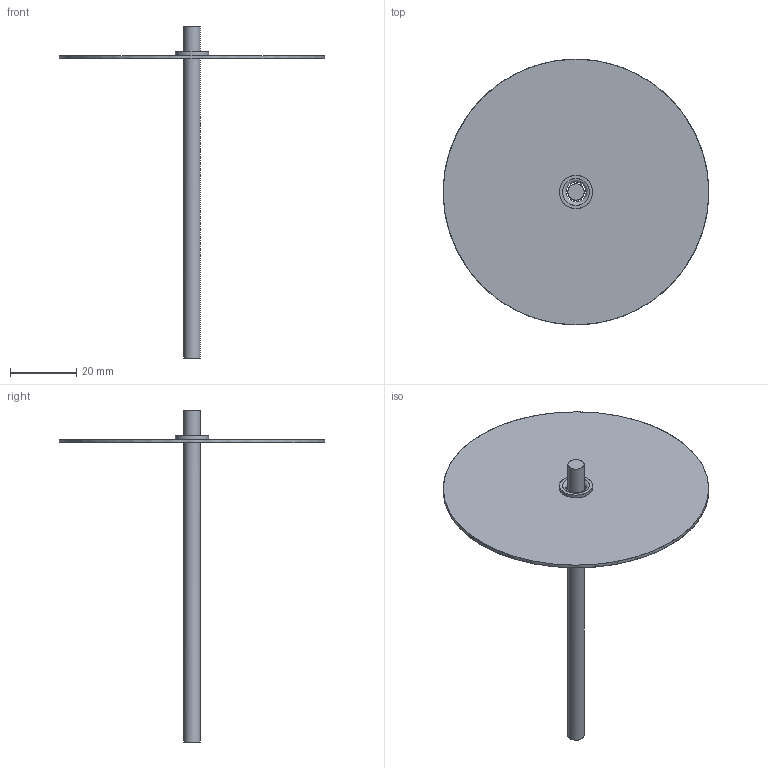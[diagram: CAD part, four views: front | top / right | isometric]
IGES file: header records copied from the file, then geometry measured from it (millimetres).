
Start section: SolidWorks IGES file using NURBS representation for surfaces
Global section: file name: Z:\Modele 3D_WWW\_CAMELEON\PUSZKI WWW\CAMELEON-CANOPY_F_8548_8547\CANOPY_F_8548_8547.IGS; native system: SolidWorks 2021; preprocessor: SolidWorks 2021; author: gabriela.tworek; date: 220301.130934; units: millimetre
Bounding box: 79.98 x 80 x 100 mm (x, y, z)
Surface area: 22303.4 mm2 (no closed solid volume)
Topology: 0 solids, 0 shells, 19 faces, 81 edges, 72 vertices
Faces by surface type: bspline 19
